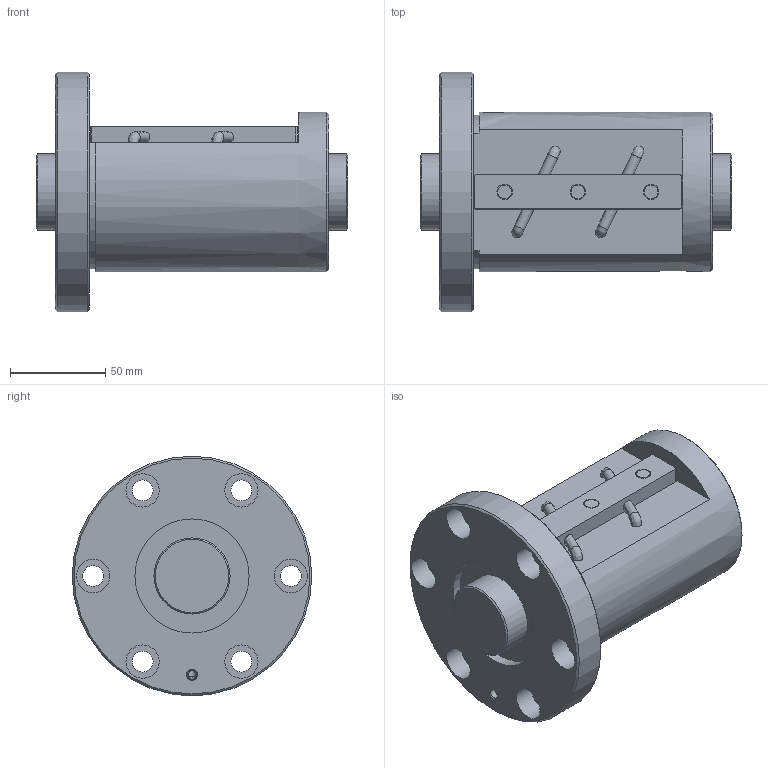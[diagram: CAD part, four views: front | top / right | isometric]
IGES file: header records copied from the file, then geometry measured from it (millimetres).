
Start section: Data from Parasolid IGES Translator 26.0.171, Copyright(c) 2006 Siemens PLM Software. All Rights Reserved.
Global section: file name: BNF4016V-5RRG1+164LC0_000_rev.igs; native system: By Siemens PLM Incorporated; preprocessor: XPlus GENERIC/IGES 26.0.171; author: Noname; organization: Noname; date: 20240806.084128; units: millimetre
Bounding box: 164 x 126 x 126 mm (x, y, z)
Surface area: 113055.4 mm2 (no closed solid volume)
Topology: 0 solids, 0 shells, 79 faces, 372 edges, 336 vertices
Faces by surface type: revolution 50, extrusion 29
